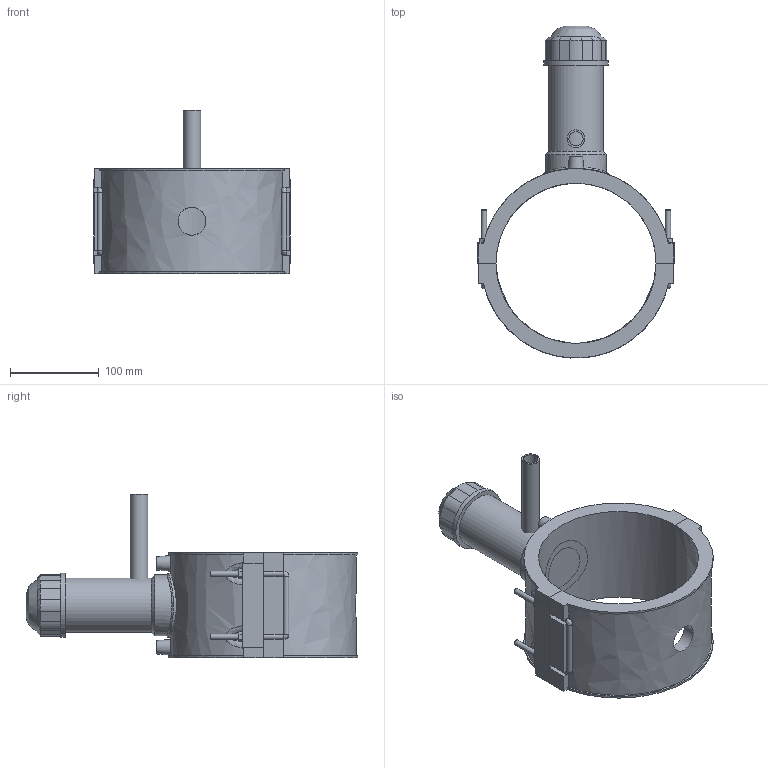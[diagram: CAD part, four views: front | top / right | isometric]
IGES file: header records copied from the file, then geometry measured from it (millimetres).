
Global section: file name: 4963P4180020; native system: Autodesk Inventor 2019; preprocessor: unknown; author: KIM; date: 20220317.113042; units: millimetre
Bounding box: 221 x 373.3 x 184 mm (x, y, z)
Volume: 1435438.4 mm3; surface area: 269333.5 mm2
Topology: 3 solids, 5 shells, 193 faces, 492 edges, 316 vertices
Faces by surface type: bspline 193
